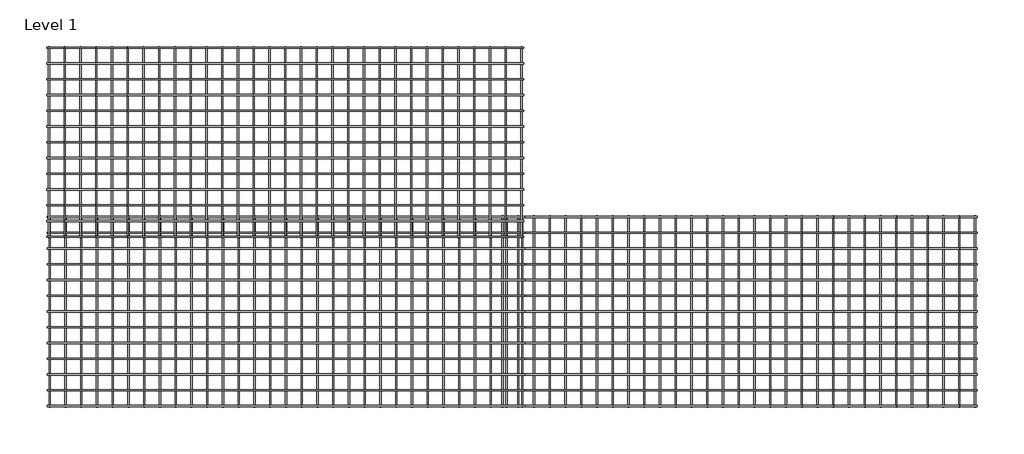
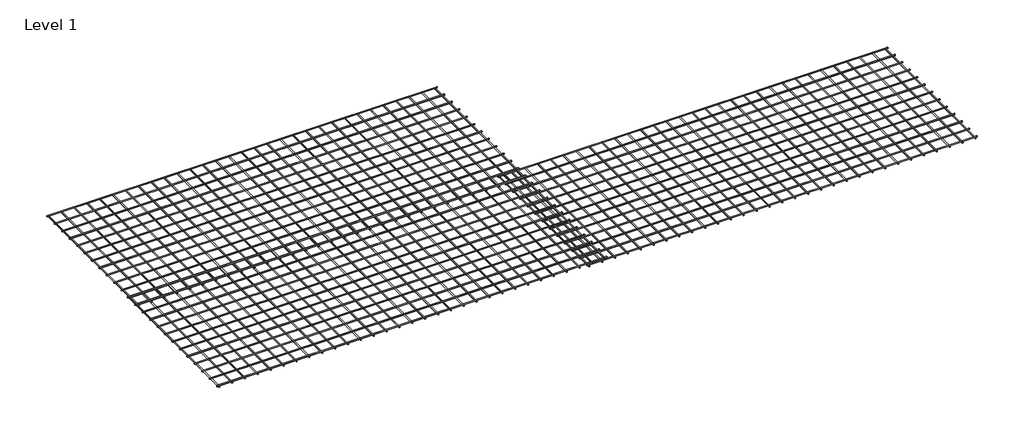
# One storey: 3 proxies.
"""IFC4 building model written with IfcOpenShell, lengths in millimetres."""

from ifc_helpers import new_model, si_unit, origin, place, context, project, spatial, transform, mapped, element, save
from components import united_steel_ductile_se82_large_mesh_united_steel_ductile_e41e5695

model = new_model("IFC4")

# Units and contexts
model_context = context("Model", 3, world=origin())
ifc_project = project(units=[si_unit("LENGTHUNIT", "METRE", prefix="MILLI")], contexts=[model_context])

# Site, building, storey
site = spatial("IfcSite", under=ifc_project)
building = spatial("IfcBuilding", under=site)
storey = spatial("IfcBuildingStorey", under=building, Name="Level 1", Elevation=0.0)

# Proxies
placement = place(None, origin())
united_steel_ductile_se82_large_mesh_united_steel_ductile_shape = united_steel_ductile_se82_large_mesh_united_steel_ductile_e41e5695(model_context)
element("IfcBuildingElementProxy", 1, Name="United Steel Ductile SE82 Large Mesh : United Steel Ductile SE82 Large Mesh", ObjectType="United Steel Ductile SE82 Large Mesh : United Steel Ductile SE82 Large Mesh", at=placement, inside=storey, context=model_context, shape_type="MappedRepresentation", body=[
    mapped(united_steel_ductile_se82_large_mesh_united_steel_ductile_shape, transform((5496.2856589, 2142.5657499, 80.625), x_axis=(1.0, 0.0, 0.0), y_axis=(0.0, 1.0, 0.0), z_axis=(0.0, 0.0, 1.0))),
])
element("IfcBuildingElementProxy", 2, Name="United Steel Ductile SE82 Large Mesh : United Steel Ductile SE82 Large Mesh", ObjectType="United Steel Ductile SE82 Large Mesh : United Steel Ductile SE82 Large Mesh", at=placement, inside=storey, context=model_context, shape_type="MappedRepresentation", body=[
    mapped(united_steel_ductile_se82_large_mesh_united_steel_ductile_shape, transform((5486.2856589, 4291.3824308, 112.5), x_axis=(1.0, 0.0, 0.0), y_axis=(0.0, 1.0, 0.0), z_axis=(0.0, 0.0, 1.0))),
])
element("IfcBuildingElementProxy", 3, Name="United Steel Ductile SE82 Large Mesh : United Steel Ductile SE82 Large Mesh", ObjectType="United Steel Ductile SE82 Large Mesh : United Steel Ductile SE82 Large Mesh", at=placement, inside=storey, context=model_context, shape_type="MappedRepresentation", body=[
    mapped(united_steel_ductile_se82_large_mesh_united_steel_ductile_shape, transform((11246.1955059, 2142.5757703, 48.75), x_axis=(1.0, 0.0, 0.0), y_axis=(0.0, 1.0, 0.0), z_axis=(0.0, 0.0, 1.0))),
])

save(model, "model.ifc")
